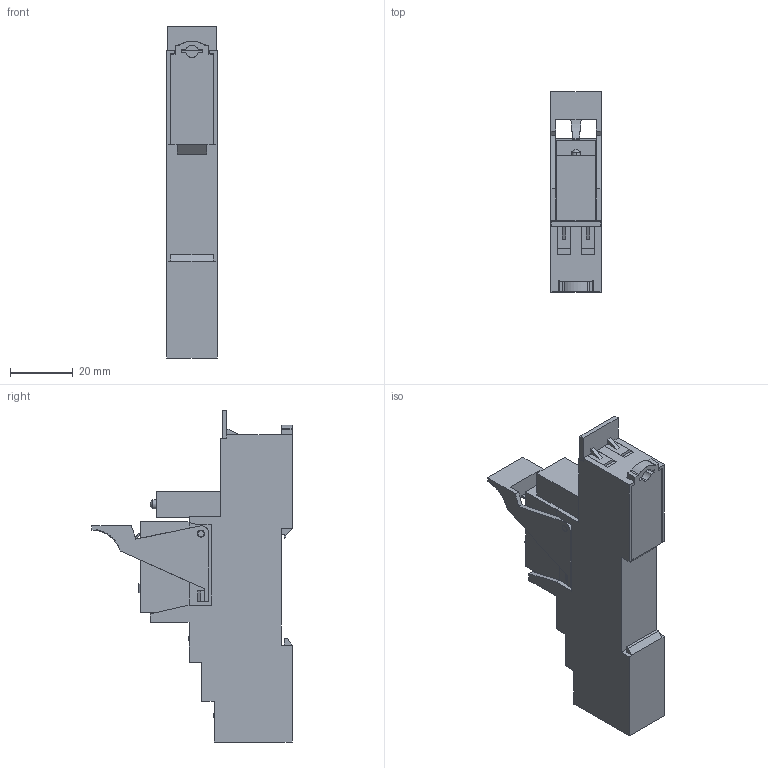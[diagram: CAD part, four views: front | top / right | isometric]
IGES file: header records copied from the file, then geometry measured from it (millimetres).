
Start section: SolidWorks IGES file using analytic representation for surfaces
Global section: file name: D:\X - Arquivos\PROEX\Empresas\P11 - METALTEX\01 - Produtos\IGES\6ª remessa\5ª etapa\PRT7M-2 - PRXM-2R - PRRM-1R.IGS; native system: SolidWorks 2012; preprocessor: SolidWorks 2012; author: Usuario; date: 190327.094235; units: millimetre
Bounding box: 15.9 x 63.6 x 105.5 mm (x, y, z)
Surface area: 17841.8 mm2 (no closed solid volume)
Topology: 0 solids, 0 shells, 757 faces, 5824 edges, 5824 vertices
Faces by surface type: bspline 719, revolution 38
